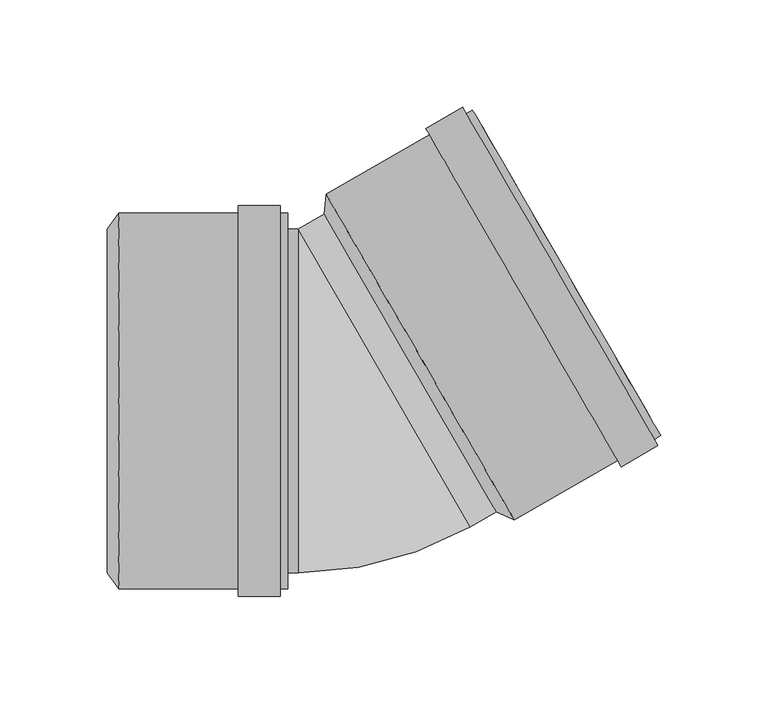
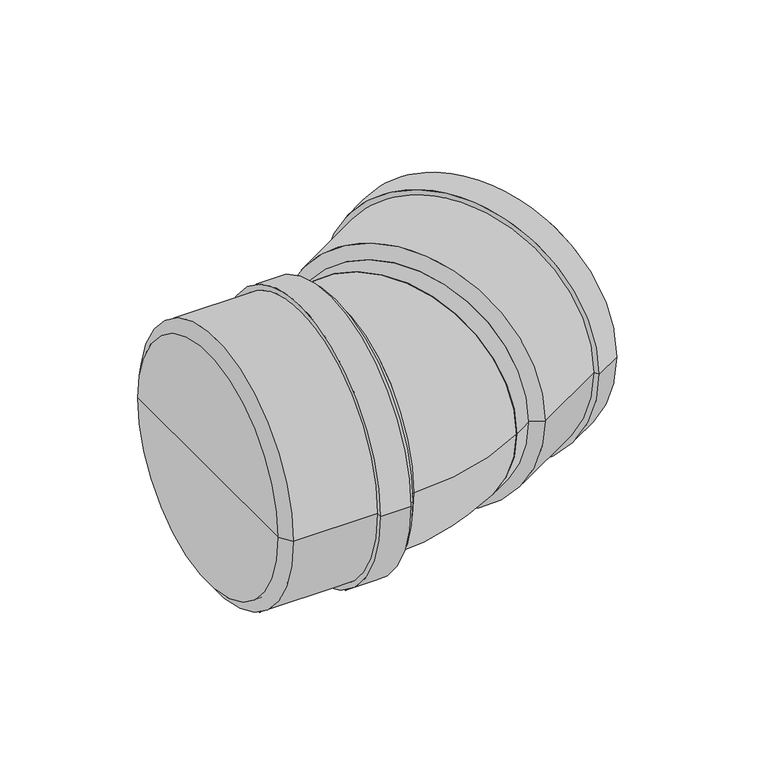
"""IFC4 building model written with IfcOpenShell, lengths in millimetres: pipe fitting geometry, pf_KGB : pf_KGB."""

from ifc_helpers import new_model, si_unit, point, frame, origin, origin_2d, place, context, project, spatial, polyline, circle_curve, ellipse_curve, trimmed, segment, composite_curve, outline, extrude, source, transform, mapped, element, save
from ifc_brep_helpers import plane_surface, cylinder_surface, revolved_surface, advanced_brep


def pipe_fitting_8a480465(model_context):
    return source(origin(), model_context, "Body", "SolidModel", [
        advanced_brep(
        [(70.6572993, -51.5820323, 0.0), (-9.3427007, 86.9820323, 0.0), (-8.4661635, 96.2638254, 0.0), (79.1338365, -55.4638254, 0.0), (30.6572993, 17.7, 0.0), (147.2034332, -16.1638254, 0.0), (59.6034332, 135.5638254, 0.0), (63.4034332, 128.9820323, 0.0), (143.4034332, -9.5820323, 0.0), (56.6589468, 133.8638254, 0.0), (144.2589468, -17.8638254, 0.0), (54.9589468, 136.8083117, 0.0), (145.9589468, -20.8083117, 0.0), (37.8982464, 126.9583117, 0.0), (128.8982464, -30.6583117, 0.0), (39.5982464, 124.0138254, 0.0), (127.1982464, -27.7138254, 0.0), (75.3338365, -48.8820323, 0.0), (-4.6661635, 89.6820323, 0.0), (35.3338365, 20.4, 0.0)],
        [
            (0, 1, circle_curve(frame((30.6572993, 17.7, 0.0), z_axis=(0.8660254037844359, 0.5000000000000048, 0.0), x_axis=(-0.5000000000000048, 0.8660254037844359, 0.0)), 80.0)),
            (1, 2),
            (2, 3, circle_curve(frame((35.3338365, 20.4, 0.0), z_axis=(-0.8660254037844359, -0.5000000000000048, 0.0), x_axis=(-0.5000000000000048, 0.8660254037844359, 0.0)), 87.6)),
            (3, 0),
            (1, 0, circle_curve(frame((30.6572993, 17.7, 0.0), z_axis=(0.8660254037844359, 0.5000000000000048, 0.0), x_axis=(-0.5000000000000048, 0.8660254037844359, 0.0)), 80.0)),
            (3, 2, circle_curve(frame((35.3338365, 20.4, 0.0), z_axis=(-0.8660254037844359, -0.5000000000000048, 0.0), x_axis=(-0.5000000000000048, 0.8660254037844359, 0.0)), 87.6)),
            (4, 1),
            (0, 4),
            (5, 6, circle_curve(frame((103.4034332, 59.7, 0.0), z_axis=(0.8660254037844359, 0.5000000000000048, 0.0), x_axis=(-0.5000000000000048, 0.8660254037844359, 0.0)), 87.6)),
            (6, 7),
            (7, 8, circle_curve(frame((103.4034332, 59.7, 0.0), z_axis=(-0.8660254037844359, -0.5000000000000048, 0.0), x_axis=(-0.5000000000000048, 0.8660254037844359, 0.0)), 80.0)),
            (8, 5),
            (9, 10, circle_curve(frame((100.4589468, 58.0, 0.0), z_axis=(0.8660254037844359, 0.5000000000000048, 0.0), x_axis=(-0.5000000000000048, 0.8660254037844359, 0.0)), 87.6)),
            (10, 5),
            (5, 6, circle_curve(frame((103.4034332, 59.7, 0.0), z_axis=(-0.8660254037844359, -0.5000000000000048, 0.0), x_axis=(-0.5000000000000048, 0.8660254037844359, 0.0)), 87.6)),
            (6, 9),
            (11, 12, circle_curve(frame((100.4589468, 58.0, 0.0), z_axis=(0.8660254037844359, 0.5000000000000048, 0.0), x_axis=(-0.5000000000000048, 0.8660254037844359, 0.0)), 91.0)),
            (12, 10),
            (9, 11),
            (13, 14, circle_curve(frame((83.3982464, 48.15, 0.0), z_axis=(0.8660254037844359, 0.5000000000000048, 0.0), x_axis=(-0.5000000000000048, 0.8660254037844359, 0.0)), 91.0)),
            (14, 12),
            (11, 13),
            (15, 16, circle_curve(frame((83.3982464, 48.15, 0.0), z_axis=(0.8660254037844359, 0.5000000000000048, 0.0), x_axis=(-0.5000000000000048, 0.8660254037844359, 0.0)), 87.6)),
            (16, 14),
            (13, 15),
            (8, 7, circle_curve(frame((103.4034332, 59.7, 0.0), z_axis=(-0.8660254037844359, -0.5000000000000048, 0.0), x_axis=(-0.5000000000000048, 0.8660254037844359, 0.0)), 80.0)),
            (10, 9, circle_curve(frame((100.4589468, 58.0, 0.0), z_axis=(0.8660254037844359, 0.5000000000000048, 0.0), x_axis=(-0.5000000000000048, 0.8660254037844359, 0.0)), 87.6)),
            (12, 11, circle_curve(frame((100.4589468, 58.0, 0.0), z_axis=(0.8660254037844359, 0.5000000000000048, 0.0), x_axis=(-0.5000000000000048, 0.8660254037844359, 0.0)), 91.0)),
            (14, 13, circle_curve(frame((83.3982464, 48.15, 0.0), z_axis=(0.8660254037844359, 0.5000000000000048, 0.0), x_axis=(-0.5000000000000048, 0.8660254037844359, 0.0)), 91.0)),
            (16, 15, circle_curve(frame((83.3982464, 48.15, 0.0), z_axis=(0.8660254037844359, 0.5000000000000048, 0.0), x_axis=(-0.5000000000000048, 0.8660254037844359, 0.0)), 87.6)),
            (2, 15),
            (16, 3),
            (17, 18, circle_curve(frame((35.3338365, 20.4, 0.0), z_axis=(0.8660254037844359, 0.5000000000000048, 0.0), x_axis=(-0.5000000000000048, 0.8660254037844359, 0.0)), 80.0)),
            (18, 19),
            (19, 17),
            (18, 17, circle_curve(frame((35.3338365, 20.4, 0.0), z_axis=(0.8660254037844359, 0.5000000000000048, 0.0), x_axis=(-0.5000000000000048, 0.8660254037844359, 0.0)), 80.0)),
            (7, 18),
            (17, 8),
        ],
        [
            revolved_surface(polyline([(-8.4661635, 96.2638254, 0.0), (-9.3427007, 86.9820323, 0.0)]), (30.6572993, 17.7, 0.0), (-0.8660254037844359, -0.5000000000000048, 0.0)),
            plane_surface(frame((30.6572993, 17.7, 0.0), z_axis=(-0.8660254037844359, -0.5000000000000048, 0.0), x_axis=(-0.5000000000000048, 0.8660254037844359, 0.0))),
            plane_surface(frame((103.4034332, 59.7, 0.0), z_axis=(0.8660254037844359, 0.5000000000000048, 0.0), x_axis=(-0.5000000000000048, 0.8660254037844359, 0.0))),
            cylinder_surface(frame((30.6572993, 17.7, 0.0), z_axis=(-0.8660254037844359, -0.5000000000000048, 0.0), x_axis=(-0.5000000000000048, 0.8660254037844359, 0.0)), 87.6),
            plane_surface(frame((100.4589468, 58.0, 0.0), z_axis=(0.8660254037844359, 0.5000000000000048, 0.0), x_axis=(-0.5000000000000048, 0.8660254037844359, 0.0))),
            cylinder_surface(frame((30.6572993, 17.7, 0.0), z_axis=(-0.8660254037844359, -0.5000000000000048, 0.0), x_axis=(-0.5000000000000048, 0.8660254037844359, 0.0)), 91.0),
            plane_surface(frame((83.3982464, 48.15, 0.0), z_axis=(-0.8660254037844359, -0.5000000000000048, 0.0), x_axis=(-0.5000000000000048, 0.8660254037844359, 0.0))),
            plane_surface(frame((35.3338365, 20.4, 0.0), z_axis=(0.8660254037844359, 0.5000000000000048, 0.0), x_axis=(-0.5000000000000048, 0.8660254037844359, 0.0))),
            revolved_surface(polyline([(-4.666163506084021, 89.68203231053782, 0.0), (63.4034332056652, 128.982032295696, 0.0)]), (30.6572993, 17.7, 0.0), (-0.8660254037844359, -0.5000000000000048, 0.0)),
        ],
        [
            (0, [[1, 2, 3, 4]]),
            (0, [[5, -4, 6, -2]]),
            (1, [[7, -1, 8]]),
            (1, [[-8, -5, -7]]),
            (2, [[9, 10, 11, 12]]),
            (3, [[13, 14, 15, 16]]),
            (4, [[17, 18, -13, 19]]),
            (5, [[20, 21, -17, 22]]),
            (6, [[23, 24, -20, 25]]),
            (2, [[-15, -12, 26, -10]]),
            (3, [[27, -16, -9, -14]]),
            (4, [[28, -19, -27, -18]]),
            (5, [[29, -22, -28, -21]]),
            (6, [[30, -25, -29, -24]]),
            (3, [[-3, 31, -30, 32]]),
            (3, [[-6, -32, -23, -31]]),
            (7, [[33, 34, 35]]),
            (7, [[36, -35, -34]]),
            (8, [[-11, 37, -33, 38]]),
            (8, [[-26, -38, -36, -37]]),
        ],
    ),
        advanced_brep(
        [(-110.4, -80.0, 0.0), (-110.4, 80.0, 0.0), (-105.0, 87.6, 0.0), (-105.0, -87.6, 0.0), (-110.4, 0.0, 0.0), (-26.4, -87.6, 0.0), (-26.4, 87.6, 0.0), (-26.4, 80.0, 0.0), (-26.4, -80.0, 0.0), (-29.8, 87.6, 0.0), (-29.8, -87.6, 0.0), (-29.8, 91.0, 0.0), (-29.8, -91.0, 0.0), (-49.5, 91.0, 0.0), (-49.5, -91.0, 0.0), (-49.5, 87.6, 0.0), (-49.5, -87.6, 0.0), (-105.0, -80.0, 0.0), (-105.0, 80.0, 0.0), (-105.0, 0.0, 0.0)],
        [
            (0, 1, circle_curve(frame((-110.4, 0.0, 0.0), z_axis=(1.0, 0.0, 0.0), x_axis=(0.0, 1.0, 0.0)), 80.0)),
            (1, 2),
            (2, 3, circle_curve(frame((-105.0, 0.0, 0.0), z_axis=(-1.0, 0.0, 0.0), x_axis=(0.0, 1.0, 0.0)), 87.6)),
            (3, 0),
            (1, 0, circle_curve(frame((-110.4, 0.0, 0.0), z_axis=(1.0, 0.0, 0.0), x_axis=(0.0, 1.0, 0.0)), 80.0)),
            (3, 2, circle_curve(frame((-105.0, 0.0, 0.0), z_axis=(-1.0, 0.0, 0.0), x_axis=(0.0, 1.0, 0.0)), 87.6)),
            (4, 1),
            (0, 4),
            (5, 6, circle_curve(frame((-26.4, 0.0, 0.0), z_axis=(1.0, 0.0, 0.0), x_axis=(0.0, 1.0, 0.0)), 87.6)),
            (6, 7),
            (7, 8, circle_curve(frame((-26.4, 0.0, 0.0), z_axis=(-1.0, 0.0, 0.0), x_axis=(0.0, 1.0, 0.0)), 80.0)),
            (8, 5),
            (9, 10, circle_curve(frame((-29.8, 0.0, 0.0), z_axis=(1.0, 0.0, 0.0), x_axis=(0.0, 1.0, 0.0)), 87.6)),
            (10, 5),
            (5, 6, circle_curve(frame((-26.4, 0.0, 0.0), z_axis=(-1.0, 0.0, 0.0), x_axis=(0.0, 1.0, 0.0)), 87.6)),
            (6, 9),
            (11, 12, circle_curve(frame((-29.8, 0.0, 0.0), z_axis=(1.0, 0.0, 0.0), x_axis=(0.0, 1.0, 0.0)), 91.0)),
            (12, 10),
            (9, 11),
            (13, 14, circle_curve(frame((-49.5, 0.0, 0.0), z_axis=(1.0, 0.0, 0.0), x_axis=(0.0, 1.0, 0.0)), 91.0)),
            (14, 12),
            (11, 13),
            (15, 16, circle_curve(frame((-49.5, 0.0, 0.0), z_axis=(1.0, 0.0, 0.0), x_axis=(0.0, 1.0, 0.0)), 87.6)),
            (16, 14),
            (13, 15),
            (8, 7, circle_curve(frame((-26.4, 0.0, 0.0), z_axis=(-1.0, 0.0, 0.0), x_axis=(0.0, 1.0, 0.0)), 80.0)),
            (10, 9, circle_curve(frame((-29.8, 0.0, 0.0), z_axis=(1.0, 0.0, 0.0), x_axis=(0.0, 1.0, 0.0)), 87.6)),
            (12, 11, circle_curve(frame((-29.8, 0.0, 0.0), z_axis=(1.0, 0.0, 0.0), x_axis=(0.0, 1.0, 0.0)), 91.0)),
            (14, 13, circle_curve(frame((-49.5, 0.0, 0.0), z_axis=(1.0, 0.0, 0.0), x_axis=(0.0, 1.0, 0.0)), 91.0)),
            (16, 15, circle_curve(frame((-49.5, 0.0, 0.0), z_axis=(1.0, 0.0, 0.0), x_axis=(0.0, 1.0, 0.0)), 87.6)),
            (2, 15),
            (16, 3),
            (17, 18, circle_curve(frame((-105.0, 0.0, 0.0), z_axis=(1.0, 0.0, 0.0), x_axis=(0.0, 1.0, 0.0)), 80.0)),
            (18, 19),
            (19, 17),
            (18, 17, circle_curve(frame((-105.0, 0.0, 0.0), z_axis=(1.0, 0.0, 0.0), x_axis=(0.0, 1.0, 0.0)), 80.0)),
            (7, 18),
            (17, 8),
        ],
        [
            revolved_surface(polyline([(-105.0, 87.6, 0.0), (-110.4, 80.0, 0.0)]), (-110.4, 0.0, 0.0), (-1.0, 0.0, 0.0)),
            plane_surface(frame((-110.4, 0.0, 0.0), z_axis=(-1.0, 0.0, 0.0), x_axis=(0.0, 1.0, 0.0))),
            plane_surface(frame((-26.4, 0.0, 0.0), z_axis=(1.0, 0.0, 0.0), x_axis=(0.0, 1.0, 0.0))),
            cylinder_surface(frame((-110.4, 0.0, 0.0), z_axis=(-1.0, 0.0, 0.0), x_axis=(0.0, 1.0, 0.0)), 87.6),
            plane_surface(frame((-29.8, 0.0, 0.0), z_axis=(1.0, 0.0, 0.0), x_axis=(0.0, 1.0, 0.0))),
            cylinder_surface(frame((-110.4, 0.0, 0.0), z_axis=(-1.0, 0.0, 0.0), x_axis=(0.0, 1.0, 0.0)), 91.0),
            plane_surface(frame((-49.5, 0.0, 0.0), z_axis=(-1.0, 0.0, 0.0), x_axis=(0.0, 1.0, 0.0))),
            plane_surface(frame((-105.0, 0.0, 0.0), z_axis=(1.0, 0.0, 0.0), x_axis=(0.0, 1.0, 0.0))),
            revolved_surface(polyline([(-105.0, 80.0, 0.0), (-26.400000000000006, 80.0, 0.0)]), (-110.4, 0.0, 0.0), (-1.0, 0.0, 0.0)),
        ],
        [
            (0, [[1, 2, 3, 4]]),
            (0, [[5, -4, 6, -2]]),
            (1, [[7, -1, 8]]),
            (1, [[-8, -5, -7]]),
            (2, [[9, 10, 11, 12]]),
            (3, [[13, 14, 15, 16]]),
            (4, [[17, 18, -13, 19]]),
            (5, [[20, 21, -17, 22]]),
            (6, [[23, 24, -20, 25]]),
            (2, [[-15, -12, 26, -10]]),
            (3, [[27, -16, -9, -14]]),
            (4, [[28, -19, -27, -18]]),
            (5, [[29, -22, -28, -21]]),
            (6, [[30, -25, -29, -24]]),
            (3, [[-3, 31, -30, 32]]),
            (3, [[-6, -32, -23, -31]]),
            (7, [[33, 34, 35]]),
            (7, [[36, -35, -34]]),
            (8, [[-11, 37, -33, 38]]),
            (8, [[-26, -38, -36, -37]]),
        ],
    ),
        extrude(outline(composite_curve([segment(trimmed(circle_curve(origin_2d(), 80.0), [point((0.0, -80.0))], [point((0.0, 80.0))], False, "CARTESIAN"), True, "CONTINUOUS"), segment(trimmed(circle_curve(origin_2d(), 80.0), [point((0.0, 80.0))], [point((0.0, -80.0))], False, "CARTESIAN"), True, "CONTINUOUS")], self_intersect=False)), frame((18.5640646, 10.7179677, 0.0), z_axis=(0.8660254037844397, 0.49999999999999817, 0.0), x_axis=(0.0, 0.0, 1.0)), (0.0, 0.0, 1.0), 13.9640646),
        extrude(outline(composite_curve([segment(trimmed(circle_curve(origin_2d(), 80.0), [point((-80.0, 0.0))], [point((80.0, 0.0))], False, "CARTESIAN"), True, "CONTINUOUS"), segment(trimmed(circle_curve(origin_2d(), 80.0), [point((80.0, 0.0))], [point((-80.0, 0.0))], False, "CARTESIAN"), True, "CONTINUOUS")], self_intersect=False)), frame((-105.0, 0.0, 0.0), z_axis=(1.0, 0.0, 0.0), x_axis=(0.0, 1.0, 0.0)), (0.0, 0.0, 1.0), 83.5640646),
        advanced_brep(
        [(-21.4359354, -80.0, 0.0), (-21.4359354, 80.0, 0.0), (58.5640646, -58.5640646, 0.0)],
        [
            (0, 1, circle_curve(frame((-21.4359354, 0.0, 0.0), z_axis=(-1.0, 0.0, 0.0), x_axis=(0.0, 1.0, 0.0)), 80.0)),
            (1, 0, circle_curve(frame((-21.4359354, 0.0, 0.0), z_axis=(-1.0, 0.0, 0.0), x_axis=(0.0, 1.0, 0.0)), 80.0)),
            (2, 1, circle_curve(frame((18.5640646, 10.7179677, 0.0), z_axis=(0.8660254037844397, 0.49999999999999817, 0.0), x_axis=(-0.49999999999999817, 0.8660254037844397, 0.0)), 80.0)),
            (1, 2, circle_curve(frame((18.5640646, 10.7179677, 0.0), z_axis=(0.8660254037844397, 0.49999999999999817, 0.0), x_axis=(-0.49999999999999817, 0.8660254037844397, 0.0)), 80.0)),
            (2, 0, circle_curve(frame((-21.4359354, 80.0, 0.0), z_axis=(0.0, 0.0, -1.0), x_axis=(0.0, -1.0, 0.0)), 160.0)),
        ],
        [
            plane_surface(frame((-21.4359354, 80.0, -14.8), z_axis=(-1.0, 0.0, 0.0), x_axis=(0.0, -1.0, 0.0))),
            plane_surface(frame((-21.4359354, 80.0, -14.8), z_axis=(0.8660254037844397, 0.4999999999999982, 0.0), x_axis=(0.4999999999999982, -0.8660254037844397, 0.0))),
            revolved_surface(trimmed(ellipse_curve(frame((-21.4359354, 0.0, 0.0), z_axis=(1.0, 0.0, 0.0), x_axis=(0.0, 1.0, 0.0)), 80.0, 80.0), [point((-21.4359354, -80.0, 0.0))], [point((-21.4359354, 80.0, 0.0))], True, "CARTESIAN"), (-21.4359354, 80.0, -14.8), (0.0, 0.0, -1.0)),
            revolved_surface(trimmed(ellipse_curve(frame((-21.4359354, 0.0, 0.0), z_axis=(1.0, 0.0, 0.0), x_axis=(0.0, 1.0, 0.0)), 80.0, 80.0), [point((-21.4359354, 80.0, 0.0))], [point((-21.4359354, -80.0, 0.0))], True, "CARTESIAN"), (-21.4359354, 80.0, -14.8), (0.0, 0.0, -1.0)),
        ],
        [
            (0, [[1, 2]]),
            (1, [[3, 4]]),
            (2, [[5, -2, -3]]),
            (3, [[-1, -5, -4]]),
        ],
    ),
    ])


if __name__ == "__main__":
    model = new_model("IFC4")
    model_context = context("Model", 3, world=origin())
    ifc_project = project(units=[si_unit("LENGTHUNIT", "METRE", prefix="MILLI")], contexts=[model_context])
    site = spatial("IfcSite", under=ifc_project)
    building = spatial("IfcBuilding", under=site)
    placement = place(None, origin())
    pipe_fitting_shape = pipe_fitting_8a480465(model_context)
    element("IfcPipeFitting", 1, ObjectType="pf_KGB : pf_KGB", at=placement, inside=building, context=model_context, shape_type="MappedRepresentation", body=[
        mapped(pipe_fitting_shape, transform((0.0, 0.0, 0.0), x_axis=(1.0, 0.0, 0.0), y_axis=(0.0, 1.0, 0.0), z_axis=(0.0, 0.0, 1.0))),
    ])
    save(model, "model.ifc")
